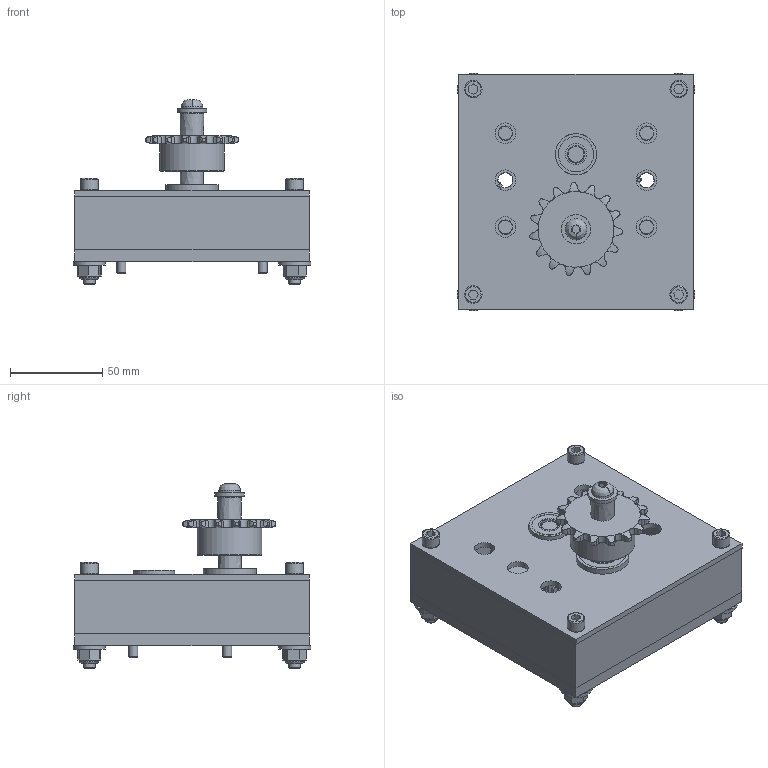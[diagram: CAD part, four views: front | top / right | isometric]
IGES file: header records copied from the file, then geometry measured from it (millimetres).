
Global section: file name: No Iges File Name specified; native system: AutoDesk Inventor R6.0; preprocessor: AutoDesk Inventor Iges Exporter R6.0; author: No Author specified; organization: No Organization specified; date: 20080106.142208; units: inch
Bounding box: 128.6 x 128.6 x 99.89 mm (x, y, z)
Surface area: 159314.4 mm2 (no closed solid volume)
Topology: 0 solids, 0 shells, 1754 faces, 9553 edges, 9375 vertices
Faces by surface type: revolution 1454, plane 264, bspline 36
